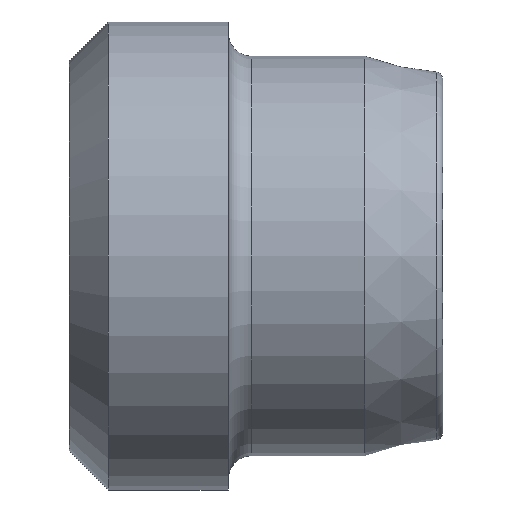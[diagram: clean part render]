
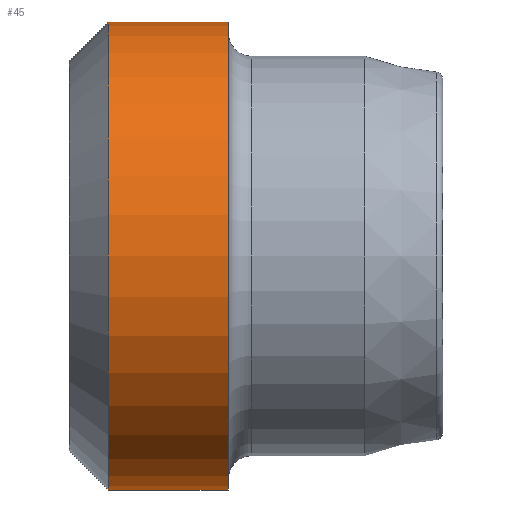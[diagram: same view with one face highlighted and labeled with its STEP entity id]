
A CAD part, front view. The second image highlights one B-rep face of the part: STEP entity #45.
In plain terms, the highlighted cylindrical face has radius 6 mm (diameter 12 mm), a full revolution.
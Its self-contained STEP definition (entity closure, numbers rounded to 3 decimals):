
#45 = ADVANCED_FACE( '', ( #98, #99 ), #100, .T. );
#98 = FACE_OUTER_BOUND( '', #199, .T. );
#99 = FACE_OUTER_BOUND( '', #200, .T. );
#100 = CYLINDRICAL_SURFACE( '', #201, 6. );
#199 = EDGE_LOOP( '', ( #263 ) );
#200 = EDGE_LOOP( '', ( #264 ) );
#201 = AXIS2_PLACEMENT_3D( '', #265, #266, #267 );
#263 = ORIENTED_EDGE( '', *, *, #343, .F. );
#264 = ORIENTED_EDGE( '', *, *, #335, .F. );
#265 = CARTESIAN_POINT( '', ( -2.788, 0.467, 0. ) );
#266 = DIRECTION( '', ( -1., 0., 0. ) );
#267 = DIRECTION( '', ( 0., 1., 0. ) );
#335 = EDGE_CURVE( '', #365, #365, #366, .T. );
#343 = EDGE_CURVE( '', #378, #378, #379, .T. );
#365 = VERTEX_POINT( '', #410 );
#366 = CIRCLE( '', #411, 6. );
#378 = VERTEX_POINT( '', #423 );
#379 = CIRCLE( '', #424, 6. );
#410 = CARTESIAN_POINT( '', ( -0.75, 6.467, 0. ) );
#411 = AXIS2_PLACEMENT_3D( '', #454, #455, #456 );
#423 = CARTESIAN_POINT( '', ( -3.825, -5.533, 0. ) );
#424 = AXIS2_PLACEMENT_3D( '', #469, #470, #471 );
#454 = CARTESIAN_POINT( '', ( -0.75, 0.467, 0. ) );
#455 = DIRECTION( '', ( 1., 0., 0. ) );
#456 = DIRECTION( '', ( 0., 1., 0. ) );
#469 = CARTESIAN_POINT( '', ( -3.825, 0.467, 0. ) );
#470 = DIRECTION( '', ( -1., 0., 0. ) );
#471 = DIRECTION( '', ( 0., -1., 0. ) );
